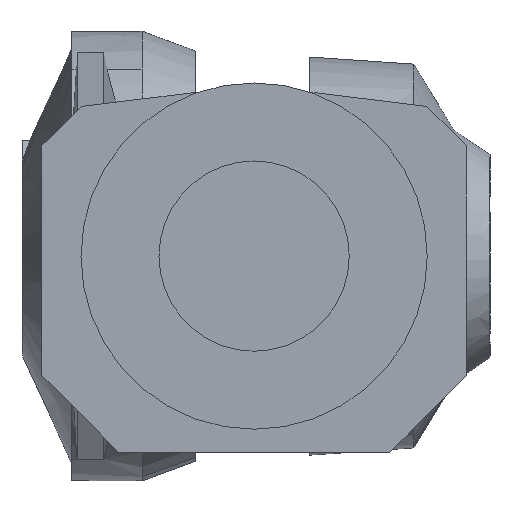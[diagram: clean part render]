
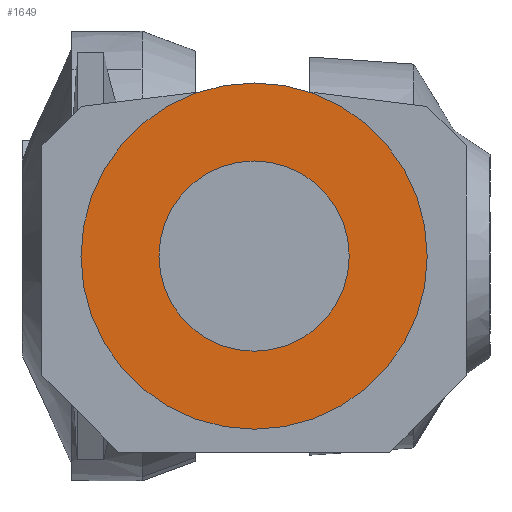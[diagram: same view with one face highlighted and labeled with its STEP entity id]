
A CAD part, left-side view. The second image highlights one B-rep face of the part: STEP entity #1649.
In plain terms, the highlighted planar face has unit normal (-1, 0, 0).
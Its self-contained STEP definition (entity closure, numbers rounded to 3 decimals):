
#263 = EDGE_CURVE ( 'NONE', #1203, #2315, #3788, .T. ) ;
#435 = FACE_BOUND ( 'NONE', #6546, .T. ) ;
#503 = EDGE_CURVE ( 'NONE', #2315, #1203, #4169, .T. ) ;
#548 = EDGE_CURVE ( 'NONE', #3056, #1472, #6507, .T. ) ;
#1203 = VERTEX_POINT ( 'NONE', #2519 ) ;
#1472 = VERTEX_POINT ( 'NONE', #4315 ) ;
#1649 = ADVANCED_FACE ( 'NONE', ( #4739, #435 ), #2005, .F. ) ;
#1652 = ORIENTED_EDGE ( 'NONE', *, *, #548, .F. ) ;
#1874 = DIRECTION ( 'NONE',  ( 0., 0., -1. ) ) ;
#1885 = DIRECTION ( 'NONE',  ( 1., 0., 0. ) ) ;
#1897 = CARTESIAN_POINT ( 'NONE',  ( 448.6, 0., 1811. ) ) ;
#2005 = PLANE ( 'NONE',  #7220 ) ;
#2101 = ORIENTED_EDGE ( 'NONE', *, *, #5147, .F. ) ;
#2315 = VERTEX_POINT ( 'NONE', #5816 ) ;
#2519 = CARTESIAN_POINT ( 'NONE',  ( 448.6, 0., 1629. ) ) ;
#3056 = VERTEX_POINT ( 'NONE', #3832 ) ;
#3130 = DIRECTION ( 'NONE',  ( -1., 0., 0. ) ) ;
#3578 = CARTESIAN_POINT ( 'NONE',  ( 448.6, 0., 1720. ) ) ;
#3603 = DIRECTION ( 'NONE',  ( 0., 0., -1. ) ) ;
#3608 = DIRECTION ( 'NONE',  ( -1., 0., 0. ) ) ;
#3622 = ORIENTED_EDGE ( 'NONE', *, *, #263, .F. ) ;
#3680 = CARTESIAN_POINT ( 'NONE',  ( 448.6, 0., 1720. ) ) ;
#3704 = DIRECTION ( 'NONE',  ( 0., 0., -1. ) ) ;
#3711 = DIRECTION ( 'NONE',  ( 1., 0., 0. ) ) ;
#3788 = CIRCLE ( 'NONE', #7327, 91. ) ;
#3832 = CARTESIAN_POINT ( 'NONE',  ( 448.6, 0., 1670. ) ) ;
#4169 = CIRCLE ( 'NONE', #4773, 91. ) ;
#4315 = CARTESIAN_POINT ( 'NONE',  ( 448.6, 0., 1770. ) ) ;
#4364 = ORIENTED_EDGE ( 'NONE', *, *, #503, .F. ) ;
#4623 = DIRECTION ( 'NONE',  ( 1., 0., 0. ) ) ;
#4698 = DIRECTION ( 'NONE',  ( 0., 0., -1. ) ) ;
#4739 = FACE_OUTER_BOUND ( 'NONE', #6858, .T. ) ;
#4740 = CARTESIAN_POINT ( 'NONE',  ( 448.6, 0., 1720. ) ) ;
#4773 = AXIS2_PLACEMENT_3D ( 'NONE', #3680, #3711, #3704 ) ;
#5147 = EDGE_CURVE ( 'NONE', #1472, #3056, #7119, .T. ) ;
#5816 = CARTESIAN_POINT ( 'NONE',  ( 448.6, 0., 1811. ) ) ;
#6507 = CIRCLE ( 'NONE', #7336, 50. ) ;
#6546 = EDGE_LOOP ( 'NONE', ( #1652, #2101 ) ) ;
#6588 = DIRECTION ( 'NONE',  ( 0., 0., -1. ) ) ;
#6629 = AXIS2_PLACEMENT_3D ( 'NONE', #7102, #3130, #6588 ) ;
#6858 = EDGE_LOOP ( 'NONE', ( #3622, #4364 ) ) ;
#7102 = CARTESIAN_POINT ( 'NONE',  ( 448.6, 0., 1720. ) ) ;
#7119 = CIRCLE ( 'NONE', #6629, 50. ) ;
#7220 = AXIS2_PLACEMENT_3D ( 'NONE', #1897, #1885, #1874 ) ;
#7327 = AXIS2_PLACEMENT_3D ( 'NONE', #4740, #4623, #4698 ) ;
#7336 = AXIS2_PLACEMENT_3D ( 'NONE', #3578, #3608, #3603 ) ;
